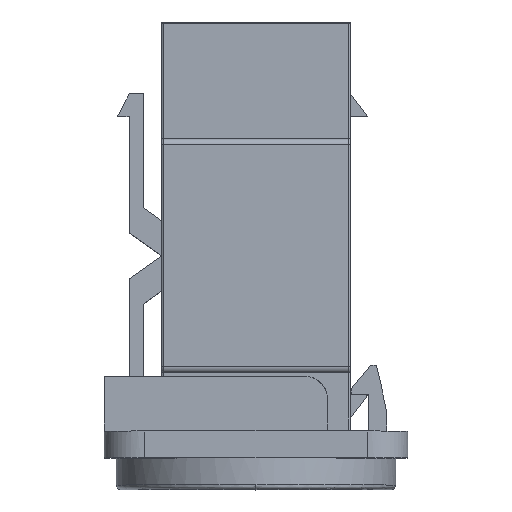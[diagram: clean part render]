
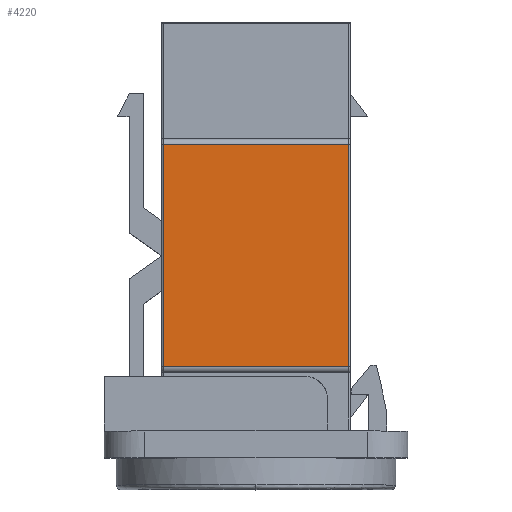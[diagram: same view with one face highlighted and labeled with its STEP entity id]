
A CAD part, top view. The second image highlights one B-rep face of the part: STEP entity #4220.
In plain terms, the highlighted planar face has unit normal (0, 0, 1) as drawn and (1, 0, 0) by its records, which use the part's own axes.
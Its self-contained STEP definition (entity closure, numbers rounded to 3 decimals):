
#3487 = VERTEX_POINT('',#3488);
#3488 = CARTESIAN_POINT('',(8.5,7.95,-9.5));
#3497 = VERTEX_POINT('',#3498);
#3498 = CARTESIAN_POINT('',(8.5,7.95,9.5));
#3505 = EDGE_CURVE('',#3497,#3487,#3506,.T.);
#3506 = LINE('',#3507,#3508);
#3507 = CARTESIAN_POINT('',(8.5,7.95,0.));
#3508 = VECTOR('',#3509,1.);
#3509 = DIRECTION('',(-0.,-0.,-1.));
#4220 = ADVANCED_FACE('',(#4221),#4246,.T.);
#4221 = FACE_BOUND('',#4222,.T.);
#4222 = EDGE_LOOP('',(#4223,#4231,#4239,#4245));
#4223 = ORIENTED_EDGE('',*,*,#4224,.F.);
#4224 = EDGE_CURVE('',#4225,#3497,#4227,.T.);
#4225 = VERTEX_POINT('',#4226);
#4226 = CARTESIAN_POINT('',(8.5,-7.95,9.5));
#4227 = LINE('',#4228,#4229);
#4228 = CARTESIAN_POINT('',(8.5,-8.05,9.5));
#4229 = VECTOR('',#4230,1.);
#4230 = DIRECTION('',(0.,1.,0.));
#4231 = ORIENTED_EDGE('',*,*,#4232,.T.);
#4232 = EDGE_CURVE('',#4225,#4233,#4235,.T.);
#4233 = VERTEX_POINT('',#4234);
#4234 = CARTESIAN_POINT('',(8.5,-7.95,-9.5));
#4235 = LINE('',#4236,#4237);
#4236 = CARTESIAN_POINT('',(8.5,-7.95,9.5));
#4237 = VECTOR('',#4238,1.);
#4238 = DIRECTION('',(-0.,-0.,-1.));
#4239 = ORIENTED_EDGE('',*,*,#4240,.T.);
#4240 = EDGE_CURVE('',#4233,#3487,#4241,.T.);
#4241 = LINE('',#4242,#4243);
#4242 = CARTESIAN_POINT('',(8.5,-8.05,-9.5));
#4243 = VECTOR('',#4244,1.);
#4244 = DIRECTION('',(0.,1.,0.));
#4245 = ORIENTED_EDGE('',*,*,#3505,.F.);
#4246 = PLANE('',#4247);
#4247 = AXIS2_PLACEMENT_3D('',#4248,#4249,#4250);
#4248 = CARTESIAN_POINT('',(8.5,0.,0.));
#4249 = DIRECTION('',(1.,0.,0.));
#4250 = DIRECTION('',(0.,0.,1.));
